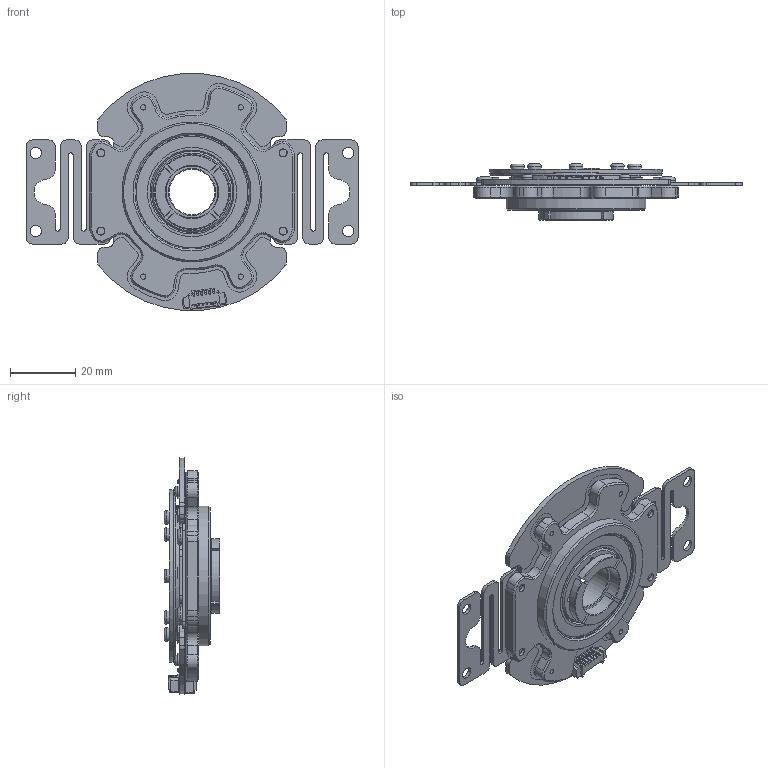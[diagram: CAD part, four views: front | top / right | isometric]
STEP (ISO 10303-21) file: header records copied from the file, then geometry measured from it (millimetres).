
FILE_DESCRIPTION(/* description */ (''),/* implementation_level */ '2;1');
FILE_NAME(/* name */ 'EAS-006B out.stp',/* time_stamp */ '2024-08-26T18:23:32+08:00',/* author */ (''),/* organization */ (''),/* preprocessor_version */ 'ST-DEVELOPER v15',/* originating_system */ 'SIEMENS PLM Software NX 8.5',/* authorisation */ '');
FILE_SCHEMA (('AUTOMOTIVE_DESIGN { 1 0 10303 214 3 1 1 1 }'));
Products named in the file (1): LeiX1FB07103tm9v
Bounding box: 102 x 17.2 x 72.76 mm (x, y, z)
Volume: 25413.5 mm3; surface area: 24068.3 mm2
Topology: 2 solids, 19 shells, 2097 faces, 5866 edges, 3899 vertices
Faces by surface type: plane 1518, cylinder 403, cone 150, torus 20, bspline 6
Full cylindrical faces by diameter (mm): 1.6 x8, 2 x4, 2.05 x8, 2.2 x4, 2.5 x16, 3 x14, 3.05 x4, 3.3 x4, 3.5 x4, 4 x4, 4.2 x8, 5.2 x4, 14 x1, 24.9 x1, 25 x1, 27.4 x2, 30.03 x1, 30.04 x1, 34.3 x2, 35.2 x1, 37 x2, 39.5 x1, 40 x1, 40.5 x2, 43 x1, 52.5 x1, 53 x1
Entity records: 70731 total; most frequent: CARTESIAN_POINT 16205, ORIENTED_EDGE 11248, DIRECTION 10661, EDGE_CURVE 5624, LINE 4459, VECTOR 4459, VERTEX_POINT 3814, AXIS2_PLACEMENT_3D 3101
